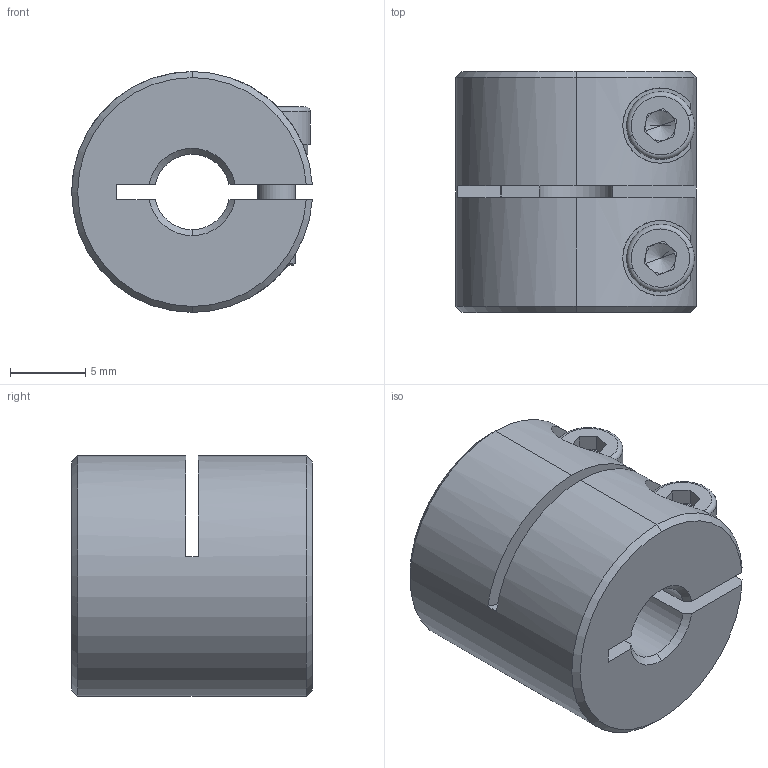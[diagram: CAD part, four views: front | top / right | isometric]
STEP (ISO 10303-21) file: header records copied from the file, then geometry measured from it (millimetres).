
FILE_DESCRIPTION (( 'STEP AP203' ), '1' );
FILE_NAME ('LL-B-D16L16-5-5.STEP', '2021-11-03T02:40:27', ( '' ), ( '' ), 'SwSTEP 2.0', 'SolidWorks 2018', '' );
FILE_SCHEMA (( 'CONFIG_CONTROL_DESIGN' ));
Length unit declared in the file: millimetre
Products named in the file (1): LL-B-D16L16-5-5
Bounding box: 15.98 x 16 x 16 mm (x, y, z)
Volume: 2663.6 mm3; surface area: 2011.7 mm2
Topology: 1 solids, 1 shells, 116 faces, 299 edges, 187 vertices
Faces by surface type: plane 50, cylinder 42, cone 20, torus 4
Entity records: 3787 total; most frequent: CARTESIAN_POINT 851, DIRECTION 624, ORIENTED_EDGE 590, EDGE_CURVE 295, AXIS2_PLACEMENT_3D 244, VERTEX_POINT 187, LINE 136, VECTOR 136
